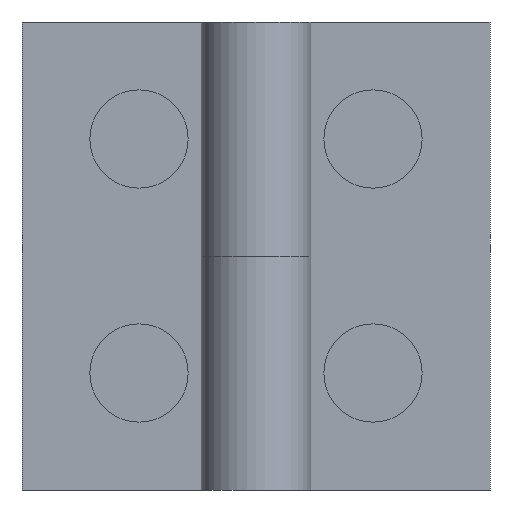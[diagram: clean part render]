
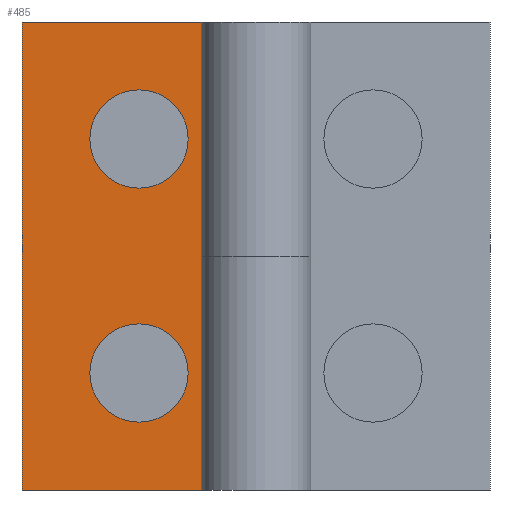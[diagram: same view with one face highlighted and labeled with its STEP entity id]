
A CAD part, front view. The second image highlights one B-rep face of the part: STEP entity #485.
In plain terms, the highlighted planar face has unit normal (0, -1, 0).
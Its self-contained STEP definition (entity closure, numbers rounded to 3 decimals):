
#112=CARTESIAN_POINT('',(-8.7,-5.,15.));
#113=VERTEX_POINT('',#112);
#114=CARTESIAN_POINT('',(-15.,-5.,15.));
#115=DIRECTION('',(0.0,1.0,0.0));
#116=DIRECTION('',(1.0,0.0,0.0));
#117=AXIS2_PLACEMENT_3D('',#114,#115,#116);
#118=CIRCLE('',#117,6.3);
#119=EDGE_CURVE('',#113,#113,#118,.T.);
#181=CARTESIAN_POINT('',(-8.7,-5.,-15.));
#182=VERTEX_POINT('',#181);
#183=CARTESIAN_POINT('',(-15.,-5.,-15.));
#184=DIRECTION('',(0.0,1.0,0.0));
#185=DIRECTION('',(1.0,0.0,0.0));
#186=AXIS2_PLACEMENT_3D('',#183,#184,#185);
#187=CIRCLE('',#186,6.3);
#188=EDGE_CURVE('',#182,#182,#187,.T.);
#250=CARTESIAN_POINT('',(-30.,-5.,-30.));
#251=VERTEX_POINT('',#250);
#252=CARTESIAN_POINT('',(-7.,-5.,-30.));
#253=VERTEX_POINT('',#252);
#254=CARTESIAN_POINT('',(-30.,-5.,-30.));
#255=DIRECTION('',(1.0,0.0,0.0));
#256=VECTOR('',#255,23.);
#257=LINE('',#254,#256);
#258=EDGE_CURVE('',#251,#253,#257,.T.);
#290=CARTESIAN_POINT('',(-7.,-5.,0.0));
#291=VERTEX_POINT('',#290);
#292=CARTESIAN_POINT('',(-7.,-5.,30.));
#293=VERTEX_POINT('',#292);
#294=CARTESIAN_POINT('',(-7.,-5.,0.0));
#295=DIRECTION('',(0.0,0.0,1.0));
#296=VECTOR('',#295,30.);
#297=LINE('',#294,#296);
#298=EDGE_CURVE('',#291,#293,#297,.T.);
#401=CARTESIAN_POINT('',(-7.,-5.,0.0));
#402=DIRECTION('',(0.0,0.0,-1.0));
#403=VECTOR('',#402,30.);
#404=LINE('',#401,#403);
#405=EDGE_CURVE('',#291,#253,#404,.T.);
#455=CARTESIAN_POINT('',(-7.,-5.,0.0));
#456=DIRECTION('',(0.0,-1.0,0.0));
#457=DIRECTION('',(0.0,0.0,1.0));
#458=AXIS2_PLACEMENT_3D('',#455,#456,#457);
#459=PLANE('',#458);
#460=CARTESIAN_POINT('',(-30.,-5.,30.));
#461=VERTEX_POINT('',#460);
#462=CARTESIAN_POINT('',(-7.,-5.,30.));
#463=DIRECTION('',(-1.0,0.0,0.0));
#464=VECTOR('',#463,23.);
#465=LINE('',#462,#464);
#466=EDGE_CURVE('',#293,#461,#465,.T.);
#467=ORIENTED_EDGE('',*,*,#466,.T.);
#468=CARTESIAN_POINT('',(-30.,-5.,-30.));
#469=DIRECTION('',(0.0,0.0,1.0));
#470=VECTOR('',#469,60.);
#471=LINE('',#468,#470);
#472=EDGE_CURVE('',#251,#461,#471,.T.);
#473=ORIENTED_EDGE('',*,*,#472,.F.);
#474=ORIENTED_EDGE('',*,*,#258,.T.);
#475=ORIENTED_EDGE('',*,*,#405,.F.);
#476=ORIENTED_EDGE('',*,*,#298,.T.);
#477=EDGE_LOOP('',(#467,#473,#474,#475,#476));
#478=FACE_OUTER_BOUND('',#477,.T.);
#479=ORIENTED_EDGE('',*,*,#119,.T.);
#480=EDGE_LOOP('',(#479));
#481=FACE_BOUND('',#480,.T.);
#482=ORIENTED_EDGE('',*,*,#188,.T.);
#483=EDGE_LOOP('',(#482));
#484=FACE_BOUND('',#483,.T.);
#485=ADVANCED_FACE('',(#478,#481,#484),#459,.T.);
